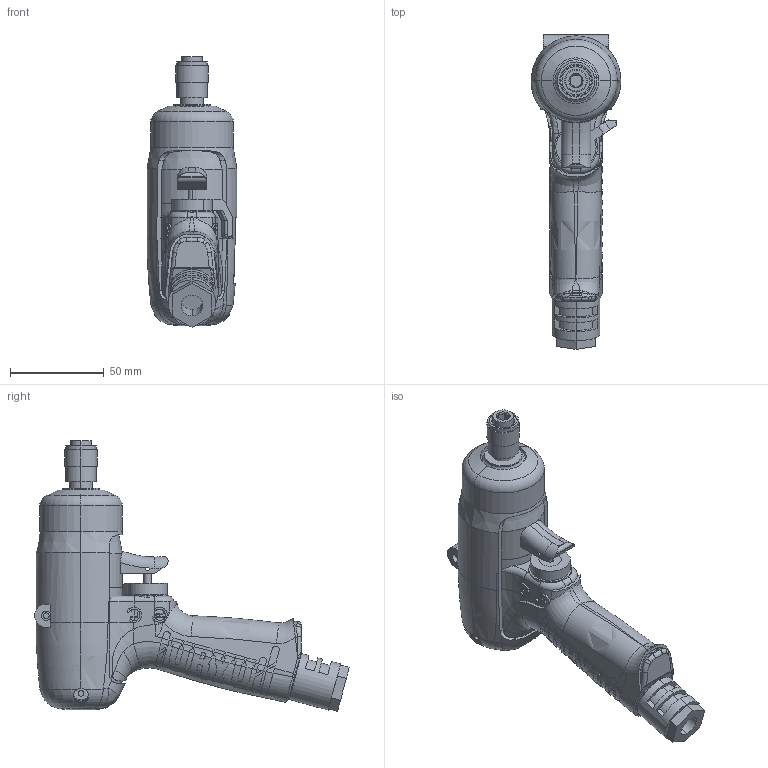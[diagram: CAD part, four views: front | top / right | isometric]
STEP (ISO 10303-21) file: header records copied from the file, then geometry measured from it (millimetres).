
FILE_DESCRIPTION (( 'STEP AP203' ), '1' );
FILE_NAME ('UL60D.STEP', '2006-02-08T05:50:09', ( '' ), ( '' ), 'SwSTEP 2.0', 'SolidWorks 2004073', '' );
FILE_SCHEMA (( 'CONFIG_CONTROL_DESIGN' ));
Length unit declared in the file: millimetre
Products named in the file (10): 1471072_UL60_蹬怮椔; 1438403_UL60_蹬怮椔; UL60D; 1433507_UL60D_蹬怮椔; 0113511_UL60D_蹬怮椔; 9810020_UL60D_蹬怮椔; 4802128_UL60_蹬怮椔; 1434396_UL60_蹬怮椔; 1430256_UL60_蹬怮椔; 1478422_UL60_蹬怮椔
Assembly tree (9 placements, depth 2):
  UL60D
    1478422_UL60_蹬怮椔
    1430256_UL60_蹬怮椔
    1471072_UL60_蹬怮椔
    4802128_UL60_蹬怮椔
    1434396_UL60_蹬怮椔
    1433507_UL60D_蹬怮椔
    1438403_UL60_蹬怮椔
    0113511_UL60D_蹬怮椔
    9810020_UL60D_蹬怮椔
Bounding box: 48 x 168.02 x 144.55 mm (x, y, z)
Volume: 294196.7 mm3; surface area: 88287.9 mm2
Topology: 9 solids, 9 shells, 1441 faces, 3886 edges, 2475 vertices
Faces by surface type: plane 914, cylinder 268, bspline 182, torus 55, cone 14, sphere 8
Entity records: 101779 total; most frequent: CARTESIAN_POINT 68516, ORIENTED_EDGE 7754, DIRECTION 5259, EDGE_CURVE 3877, VERTEX_POINT 2472, AXIS2_PLACEMENT_3D 1805, VECTOR 1649, LINE 1649
